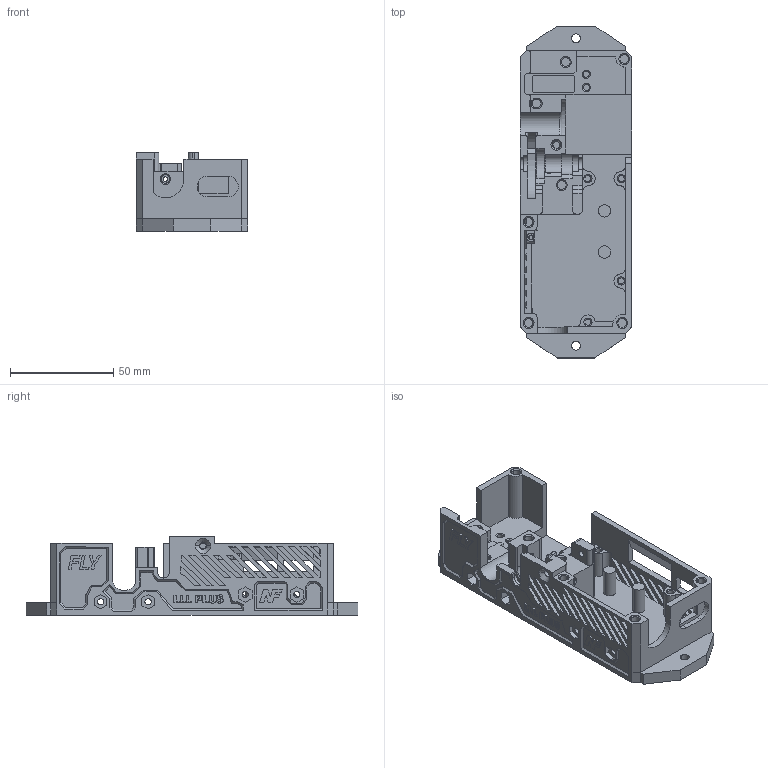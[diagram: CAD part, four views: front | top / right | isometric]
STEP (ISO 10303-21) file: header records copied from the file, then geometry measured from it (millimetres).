
FILE_DESCRIPTION((''),'2;1');
FILE_NAME('0001','2025-04-16T16:44:55',('Mayn'),(''),'CREO PARAMETRIC BY PTC INC, 2024063','CREO PARAMETRIC BY PTC INC, 2024063','');
FILE_SCHEMA(('CONFIG_CONTROL_DESIGN'));
Length unit declared in the file: millimetre
Products named in the file (1): 0001
Bounding box: 54.2 x 161 x 38 mm (x, y, z)
Volume: 93444.7 mm3; surface area: 45846.4 mm2
Topology: 1 solids, 2 shells, 915 faces, 2515 edges, 1635 vertices
Faces by surface type: plane 676, cylinder 120, extrusion 60, cone 42, bspline 10, torus 7
Entity records: 30822 total; most frequent: CARTESIAN_POINT 7500, ORIENTED_EDGE 5024, DIRECTION 4412, EDGE_CURVE 2515, VECTOR 2066, LINE 2006, VERTEX_POINT 1635, AXIS2_PLACEMENT_3D 1173
